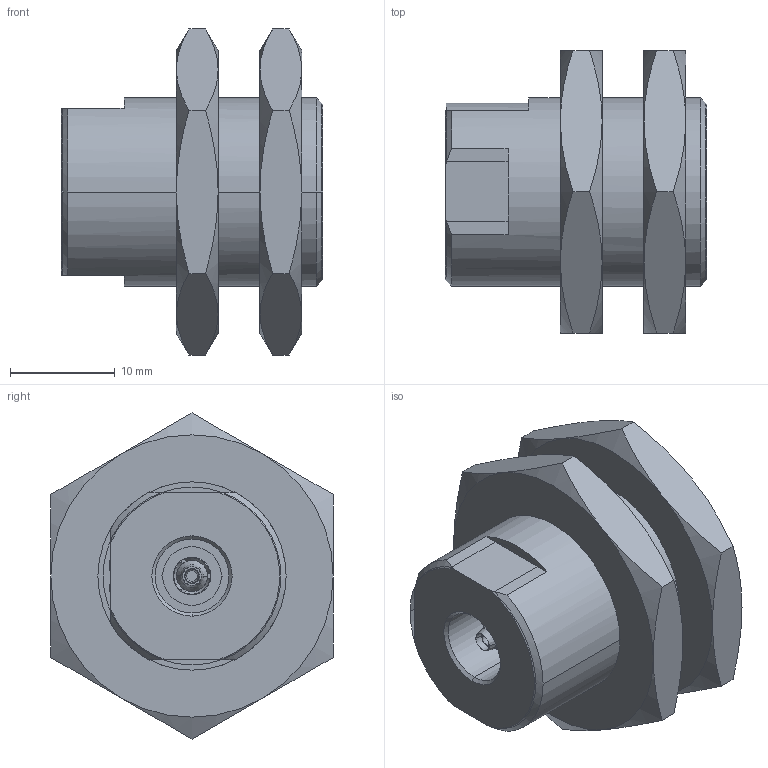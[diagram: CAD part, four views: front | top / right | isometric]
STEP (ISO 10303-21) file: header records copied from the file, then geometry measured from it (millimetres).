
FILE_DESCRIPTION((''),'2;1');
FILE_NAME('ES4_ASM','2008-09-19T',('11000205'),(''),'PRO/ENGINEER BY PARAMETRIC TECHNOLOGY CORPORATION, 2006460','PRO/ENGINEER BY PARAMETRIC TECHNOLOGY CORPORATION, 2006460','');
FILE_SCHEMA(('CONFIG_CONTROL_DESIGN'));
Length unit declared in the file: millimetre
Products named in the file (4): ES4; MUTTER-SW27; ZFG0_134; ES4_ASM
Assembly tree (4 placements, depth 2):
  ES4_ASM
    ES4
    MUTTER-SW27  x2
    ZFG0_134
Bounding box: 25 x 27 x 31.18 mm (x, y, z)
Volume: 9114.5 mm3; surface area: 7081.2 mm2
Topology: 4 solids, 7 shells, 807 faces, 2273 edges, 1491 vertices
Faces by surface type: plane 657, cylinder 75, cone 70, torus 5
Entity records: 25424 total; most frequent: CARTESIAN_POINT 4990, ORIENTED_EDGE 4406, DIRECTION 3933, EDGE_CURVE 2211, VECTOR 1867, LINE 1867, VERTEX_POINT 1455, AXIS2_PLACEMENT_3D 1033
